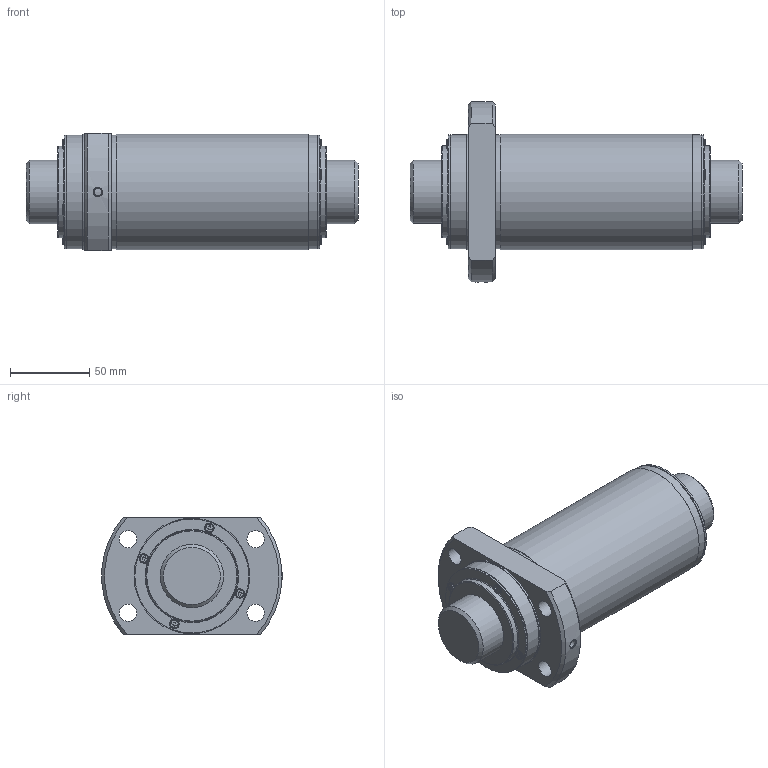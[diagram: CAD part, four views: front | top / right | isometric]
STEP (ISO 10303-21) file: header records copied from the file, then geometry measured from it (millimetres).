
FILE_DESCRIPTION(/* description */ ('STEP AP203'),/* implementation_level */ '2;1');
FILE_NAME(/* name */ 'WTF4080-3ZZ+209.8LC7T_000_rev',/* time_stamp */ '2025-06-11T06:41:25+02:00',/* author */ ('License CC BY-ND 4.0'),/* organization */ ('CADENAS'),/* preprocessor_version */ 'ST-DEVELOPER v19.3',/* originating_system */ 'PARTsolutions',/* authorisation */ ' ');
FILE_SCHEMA (('CONFIG_CONTROL_DESIGN'));
Length unit declared in the file: millimetre
Products named in the file (3): WTF4080-3ZZ+209.8LC7T_000_rev; WTF4080-30ZZ0 Shaft; WTF4080-3ZZ Nut
Assembly tree (2 placements, depth 2):
  WTF4080-3ZZ+209.8LC7T_000_rev
    WTF4080-30ZZ0 Shaft
    WTF4080-3ZZ Nut
Bounding box: 209.8 x 113.82 x 74 mm (x, y, z)
Volume: 798550.1 mm3; surface area: 105565.8 mm2
Topology: 2 solids, 2 shells, 206 faces, 539 edges, 354 vertices
Faces by surface type: plane 127, cylinder 58, torus 12, cone 9
Full cylindrical faces by diameter (mm): 4.917 x1, 6 x8, 11 x4, 40 x2, 58 x2, 72 x5, 73 x2
Entity records: 6151 total; most frequent: CARTESIAN_POINT 1115, DIRECTION 1028, ORIENTED_EDGE 974, EDGE_CURVE 487, AXIS2_PLACEMENT_3D 350, VERTEX_POINT 343, LINE 328, VECTOR 328
